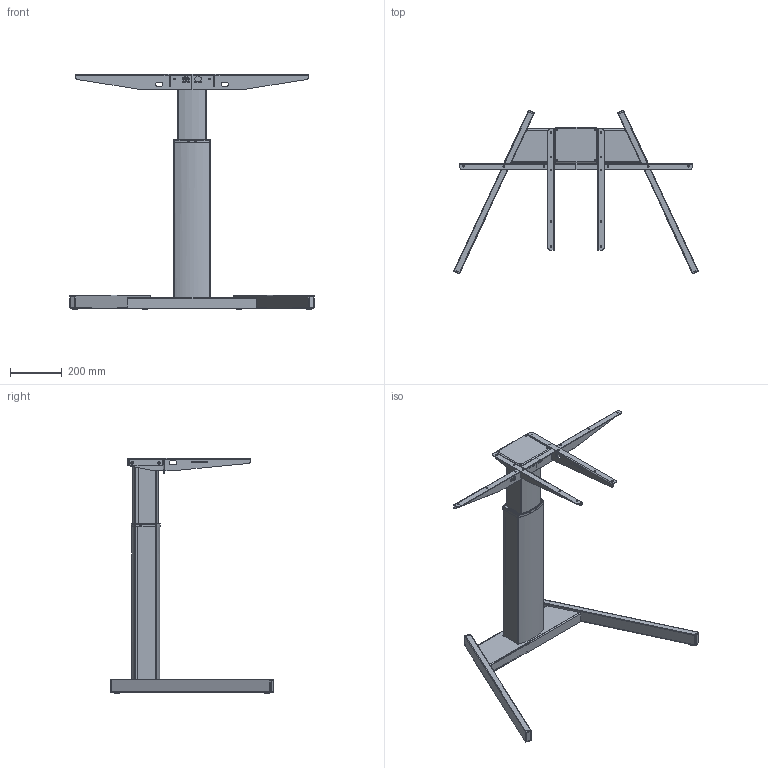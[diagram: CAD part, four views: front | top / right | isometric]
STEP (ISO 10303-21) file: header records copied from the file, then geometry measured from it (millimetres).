
FILE_DESCRIPTION (( 'STEP AP203' ), '1' );
FILE_NAME ('Tech-draw_501-19_XX095.STEP', '2019-11-11T09:38:08', ( '' ), ( '' ), 'SwSTEP 2.0', 'SolidWorks 2018', '' );
FILE_SCHEMA (( 'CONFIG_CONTROL_DESIGN' ));
Length unit declared in the file: millimetre
Products named in the file (33): 311670; Tech-draw_501-19_XX095; 149510_501-19 XS095; 304650_black; 111360_shell view; 311890; 316900_Silver; 107880_Shell view; 111250_silver; 318280; 114960_Shell view; 320500; 110580_silver; 107860_silver; 114950_Shell view; 312140; 311680; 306980_black; 311700_Shell view; 311900; 107870_silver; 311610; 311690_Shell view; 320490; 350250; 311630_shell view1; 316990; 315910_AJfod; 320530; 111500_silver; 315920_Silver; 350240; 315930_Shell view
Assembly tree (51 placements, depth 6):
  Tech-draw_501-19_XX095
    149510_501-19 XS095
      111500_silver
        107870_silver
          107860_silver
            311670
            311680
            311610
            350250
        111360_shell view
          107880_Shell view
            311690_Shell view
            311700_Shell view
            311630_shell view1
          312140
          350240
        306980_black  x4
      114960_Shell view
        320500
        311890
        320530
      114950_Shell view
        320490
        311900
        320530
      111250_silver
        110580_silver
          315910_AJfod
          315920_Silver
          315930_Shell view
          316900_Silver
          318280  x4
        316990  x4
      304650_black  x10
Bounding box: 946.14 x 632.25 x 913 mm (x, y, z)
Volume: 2350053 mm3; surface area: 2158979.2 mm2
Topology: 41 solids, 41 shells, 1625 faces, 4149 edges, 2682 vertices
Faces by surface type: plane 883, cylinder 521, bspline 137, torus 46, sphere 24, cone 14
Full cylindrical faces by diameter (mm): 2 x2, 4 x4, 4.3 x2, 4.5 x6, 5 x20, 5.5 x4, 6 x144, 6.5 x2, 7 x10, 10 x8, 37.8 x1
Entity records: 51131 total; most frequent: CARTESIAN_POINT 18051, ORIENTED_EDGE 5994, DIRECTION 5787, EDGE_CURVE 2997, VERTEX_POINT 1979, VECTOR 1967, LINE 1967, AXIS2_PLACEMENT_3D 1910
